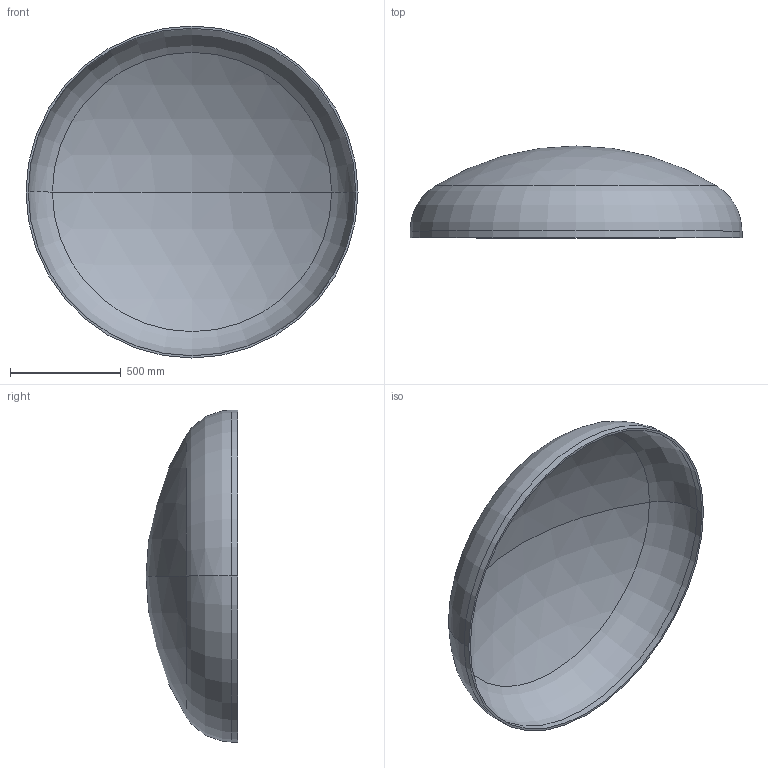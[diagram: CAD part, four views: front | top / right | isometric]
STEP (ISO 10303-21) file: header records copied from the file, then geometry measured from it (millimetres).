
FILE_DESCRIPTION (( 'STEP AP203' ), '1' );
FILE_NAME ('DIN 28013 Korbbogenform_-_Boden DIN 28013 - 1500 x 30 - I - s=10.step', '2016-07-01T10:35:19', ( '' ), ( '' ), 'SwSTEP 2.0', 'SolidWorks 2013', '' );
FILE_SCHEMA (( 'CONFIG_CONTROL_DESIGN' ));
Length unit declared in the file: millimetre
Products named in the file (1): DIN 28013 Korbbogenform_-_Boden DIN 28013 - 1500 x 30 - I - s=10
Bounding box: 1500 x 414.89 x 1500 mm (x, y, z)
Volume: 25644100.2 mm3; surface area: 5175837.2 mm2
Topology: 1 solids, 1 shells, 13 faces, 24 edges, 14 vertices
Faces by surface type: torus 4, cylinder 4, sphere 4, plane 1
Entity records: 407 total; most frequent: DIRECTION 72, CARTESIAN_POINT 52, ORIENTED_EDGE 48, AXIS2_PLACEMENT_3D 34, EDGE_CURVE 24, CIRCLE 20, VERTEX_POINT 14, EDGE_LOOP 14
